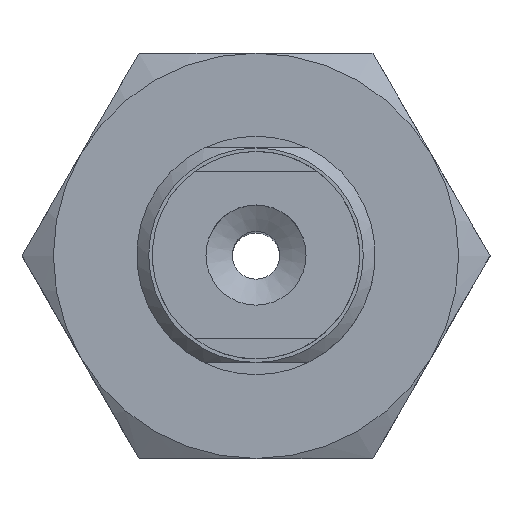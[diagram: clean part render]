
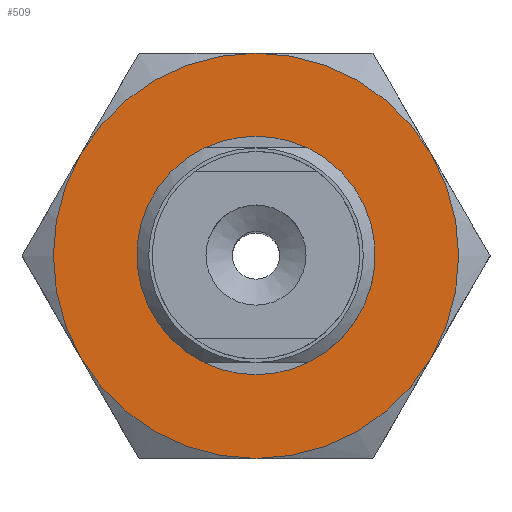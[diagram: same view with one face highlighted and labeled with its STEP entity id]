
A CAD part, top view. The second image highlights one B-rep face of the part: STEP entity #509.
In plain terms, the highlighted planar face has unit normal (0, 0, 1).
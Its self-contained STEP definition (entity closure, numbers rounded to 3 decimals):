
#509=ADVANCED_FACE('',(#716,#717),#718,.T.);
#716=FACE_BOUND('',#1002,.T.);
#717=FACE_OUTER_BOUND('',#1003,.T.);
#718=PLANE('',#1004);
#1002=EDGE_LOOP('',(#1690));
#1003=EDGE_LOOP('',(#1691,#1692,#1693,#1694,#1695,#1696));
#1004=AXIS2_PLACEMENT_3D('',#1697,#1698,#1699);
#1690=ORIENTED_EDGE('',*,*,#2132,.F.);
#1691=ORIENTED_EDGE('',*,*,#2107,.F.);
#1692=ORIENTED_EDGE('',*,*,#2122,.F.);
#1693=ORIENTED_EDGE('',*,*,#2126,.F.);
#1694=ORIENTED_EDGE('',*,*,#2130,.F.);
#1695=ORIENTED_EDGE('',*,*,#2109,.F.);
#1696=ORIENTED_EDGE('',*,*,#2102,.F.);
#1697=CARTESIAN_POINT('',(-9.815,-8.5,4.0));
#1698=DIRECTION('',(0.0,0.0,1.0));
#1699=DIRECTION('',(1.0,0.0,0.0));
#2102=EDGE_CURVE('',#2382,#2369,#2384,.T.);
#2107=EDGE_CURVE('',#2391,#2382,#2394,.T.);
#2109=EDGE_CURVE('',#2369,#2379,#2396,.T.);
#2122=EDGE_CURVE('',#2412,#2391,#2417,.T.);
#2126=EDGE_CURVE('',#2403,#2412,#2421,.T.);
#2130=EDGE_CURVE('',#2379,#2403,#2426,.T.);
#2132=EDGE_CURVE('',#2428,#2428,#2429,.T.);
#2369=VERTEX_POINT('',#2866);
#2379=VERTEX_POINT('',#2893);
#2382=VERTEX_POINT('',#2904);
#2384=CIRCLE('',#2910,8.5);
#2391=VERTEX_POINT('',#2925);
#2394=CIRCLE('',#2932,8.5);
#2396=CIRCLE('',#2938,8.5);
#2403=VERTEX_POINT('',#2954);
#2412=VERTEX_POINT('',#2980);
#2417=CIRCLE('',#2997,8.5);
#2421=CIRCLE('',#3006,8.5);
#2426=CIRCLE('',#3011,8.5);
#2428=VERTEX_POINT('',#3017);
#2429=CIRCLE('',#3018,4.5);
#2866=CARTESIAN_POINT('',(-7.361,4.25,4.0));
#2893=CARTESIAN_POINT('',(0.,8.5,4.0));
#2904=CARTESIAN_POINT('',(-7.361,-4.25,4.0));
#2910=AXIS2_PLACEMENT_3D('',#3377,#3378,#3379);
#2925=CARTESIAN_POINT('',(0.,-8.5,4.0));
#2932=AXIS2_PLACEMENT_3D('',#3383,#3384,#3385);
#2938=AXIS2_PLACEMENT_3D('',#3386,#3387,#3388);
#2954=CARTESIAN_POINT('',(7.361,4.25,4.0));
#2980=CARTESIAN_POINT('',(7.361,-4.25,4.0));
#2997=AXIS2_PLACEMENT_3D('',#3394,#3395,#3396);
#3006=AXIS2_PLACEMENT_3D('',#3401,#3402,#3403);
#3011=AXIS2_PLACEMENT_3D('',#3413,#3414,#3415);
#3017=CARTESIAN_POINT('',(0.0,-4.5,4.0));
#3018=AXIS2_PLACEMENT_3D('',#3416,#3417,#3418);
#3377=CARTESIAN_POINT('',(0.,0.,4.0));
#3378=DIRECTION('',(0.,0.,-1.0));
#3379=DIRECTION('',(0.866,0.5,0.));
#3383=CARTESIAN_POINT('',(0.,0.,4.0));
#3384=DIRECTION('',(0.,0.,-1.0));
#3385=DIRECTION('',(0.866,0.5,0.));
#3386=CARTESIAN_POINT('',(0.,0.,4.0));
#3387=DIRECTION('',(0.,0.,-1.0));
#3388=DIRECTION('',(0.866,0.5,0.));
#3394=CARTESIAN_POINT('',(0.,0.,4.0));
#3395=DIRECTION('',(0.,0.,-1.0));
#3396=DIRECTION('',(0.866,0.5,0.));
#3401=CARTESIAN_POINT('',(0.,0.,4.0));
#3402=DIRECTION('',(0.,0.,-1.0));
#3403=DIRECTION('',(0.866,0.5,0.));
#3413=CARTESIAN_POINT('',(0.,0.,4.0));
#3414=DIRECTION('',(0.,0.,-1.0));
#3415=DIRECTION('',(0.866,0.5,0.));
#3416=CARTESIAN_POINT('',(0.0,0.0,4.0));
#3417=DIRECTION('',(0.0,0.,1.0));
#3418=DIRECTION('',(0.0,-1.0,0.));
